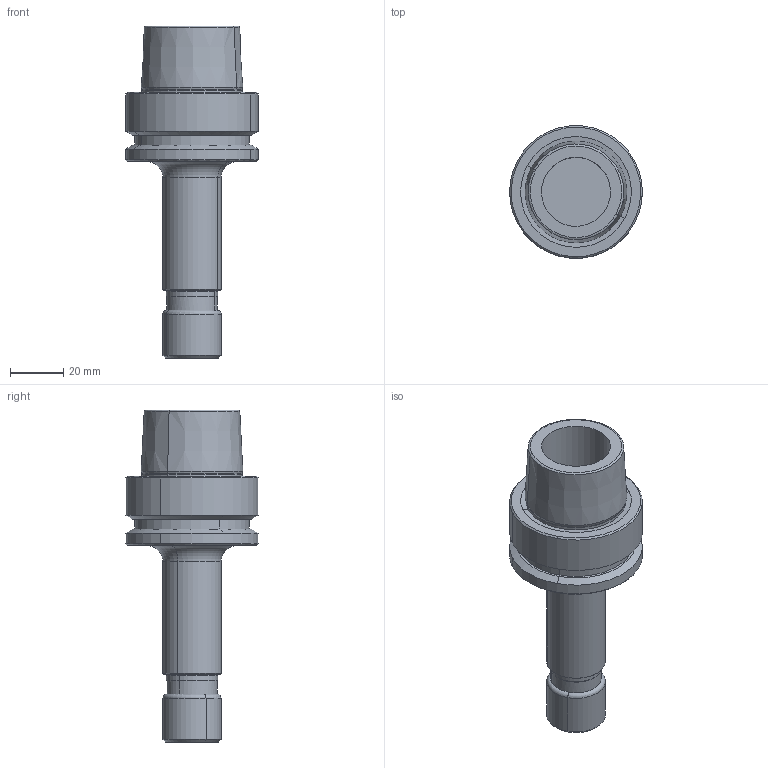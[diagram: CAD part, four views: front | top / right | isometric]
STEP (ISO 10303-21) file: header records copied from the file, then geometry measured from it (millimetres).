
FILE_DESCRIPTION(('CATIA V5 STEP','CAx-IF Rec.Pracs.--- Model Styling and Organization---1.2---2011-12-15'),'2;1');
FILE_NAME('\\nas01\drv1\utils\eitdev\rte\eit\transmagicconvert\db\out\635935365012528915\4503968-D-B-L.stp','2016-03-14T05:15:16+00:00',('none'),('none'),'CATIA Version 5 Release 21 SP 5 (IN-10)','CATIA V5 STEP AP214','none');
FILE_SCHEMA(('AUTOMOTIVE_DESIGN { 1 0 10303 214 1 1 1 1 }'));
Length unit declared in the file: millimetre
Products named in the file (1): HSK E 50 ER16X100 M
Bounding box: 50 x 49.83 x 125 mm (x, y, z)
Volume: 79541.8 mm3; surface area: 20741.4 mm2
Topology: 1 solids, 1 shells, 67 faces, 146 edges, 87 vertices
Faces by surface type: cylinder 24, cone 22, torus 12, plane 9
Entity records: 1628 total; most frequent: ORIENTED_EDGE 288, CARTESIAN_POINT 272, DIRECTION 224, EDGE_CURVE 144, AXIS2_PLACEMENT_3D 139, CIRCLE 98, VERTEX_POINT 87, EDGE_LOOP 75
